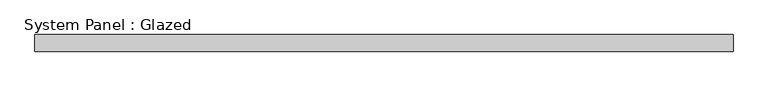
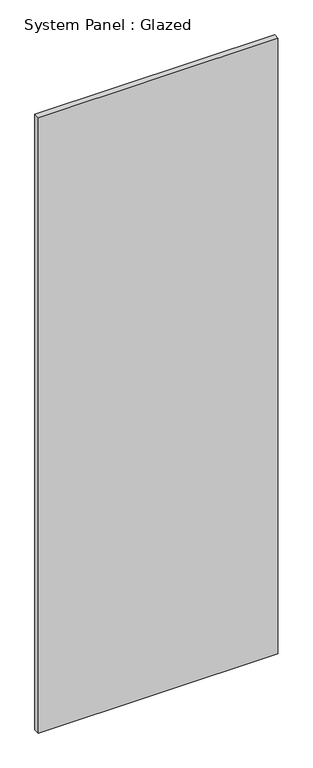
"""IFC4 building model written with IfcOpenShell, lengths in millimetres: plate geometry, System Panel : Glazed."""

import ifcopenshell
import ifcopenshell.guid

model = None  # the IFC model being written
_history = None  # IfcOwnerHistory: only IFC2X3 demands one
_inside = {}  # id of a spatial element -> (the spatial element, [elements in it])
_under = {}  # id of a project, library or spatial element -> (it, [spatial elements below it])
_declared = {}  # id of a project -> (the project, [libraries it declares])
_typed = {}  # id of a type object -> (the type object, [elements of that type])
_made_of = {}  # id of a material, layer set ... -> (it, [elements and type objects made of it])


def new_model(schema):
    """Start an empty IFC model of exactly this schema.

    Asked for "IFC4X3", IfcOpenShell would pick the latest addendum, in which some entities
    have other attributes; the version numbers below select the first issue.
    IFC2X3 requires an IfcOwnerHistory on every rooted entity: one is made here for all.
    """
    global model, _history
    if schema == "IFC4X3":
        model = ifcopenshell.file(schema_version=(4, 3, 0, 0))
    else:
        model = ifcopenshell.file(schema=schema)
    _inside.clear()
    _under.clear()
    _declared.clear()
    _typed.clear()
    _made_of.clear()
    _history = None
    if model.schema == "IFC2X3":
        org = make("IfcOrganization", Name="unknown")
        user = make(
            "IfcPersonAndOrganization",
            ThePerson=make("IfcPerson", FamilyName="unknown"),
            TheOrganization=org,
        )
        app = make(
            "IfcApplication",
            ApplicationDeveloper=org,
            Version="unknown",
            ApplicationFullName="unknown",
            ApplicationIdentifier="unknown",
        )
        _history = make(
            "IfcOwnerHistory",
            OwningUser=user,
            OwningApplication=app,
            ChangeAction="ADDED",
            CreationDate=0,
        )
    return model


def make(cls, **values):
    """One entity of the class cls with the attributes given. An attribute that is None is left unset."""
    return model.create_entity(
        cls, **{name: value for name, value in values.items() if value is not None}
    )


def rooted(cls, **values):
    """An entity with a GlobalId (a new one), such as an element, a storey or a relation."""
    return make(cls, GlobalId=ifcopenshell.guid.new(), OwnerHistory=_history, **values)


def si_unit(unit_type, name, prefix=None):
    """IfcSIUnit, for example si_unit("LENGTHUNIT", "METRE", prefix="MILLI")."""
    return make("IfcSIUnit", UnitType=unit_type, Prefix=prefix, Name=name)


def assignment(units):
    """IfcUnitAssignment: the units of a project."""
    return None if units is None else make("IfcUnitAssignment", Units=units)


def point(xyz):
    """IfcCartesianPoint."""
    return None if xyz is None else make("IfcCartesianPoint", Coordinates=xyz)


def direction(xyz):
    """IfcDirection."""
    return None if xyz is None else make("IfcDirection", DirectionRatios=xyz)


def frame(location, z_axis=None, x_axis=None):
    """IfcAxis2Placement3D, a coordinate frame: its origin and axes. An axis left out is left unset."""
    return make(
        "IfcAxis2Placement3D",
        Location=point(location),
        Axis=direction(z_axis),
        RefDirection=direction(x_axis),
    )


def origin():
    """The frame at (0, 0, 0) with its axes left unset."""
    return frame((0.0, 0.0, 0.0))


def origin_with_axes():
    """The frame at (0, 0, 0) with the z axis (0, 0, 1) and the x axis (1, 0, 0) written out."""
    return frame((0.0, 0.0, 0.0), z_axis=(0.0, 0.0, 1.0), x_axis=(1.0, 0.0, 0.0))


def place(relative_to, where):
    """IfcLocalPlacement: puts the frame where relative to a parent placement (None: the world)."""
    return make(
        "IfcLocalPlacement", PlacementRelTo=relative_to, RelativePlacement=where
    )


def context(
    kind, dimensions, precision=None, world=None, true_north=None, identifier=None
):
    """IfcGeometricRepresentationContext, for example the 3D "Model" context."""
    return make(
        "IfcGeometricRepresentationContext",
        ContextIdentifier=identifier,
        ContextType=kind,
        CoordinateSpaceDimension=dimensions,
        Precision=precision,
        WorldCoordinateSystem=world,
        TrueNorth=true_north,
    )


def project(units=None, contexts=None):
    """IfcProject with its units and contexts."""
    return rooted(
        "IfcProject",
        Name="project",
        RepresentationContexts=contexts,
        UnitsInContext=assignment(units),
    )


def spatial(cls, under=None, at=None, **own):
    """A site, building, storey or space (cls), placed at a placement, below another one or the project."""
    s = rooted(cls, ObjectPlacement=at, **own)
    if under is not None:
        _under.setdefault(under.id(), (under, []))[1].append(s)
    return s


def polyline(points):
    """IfcPolyline through the points."""
    return make("IfcPolyline", Points=[point(p) for p in points])


def outline(outer, holes=None, kind="AREA"):
    """IfcArbitraryClosedProfileDef: a profile drawn as a closed curve; with holes, ...WithVoids."""
    if holes is None:
        return make("IfcArbitraryClosedProfileDef", ProfileType=kind, OuterCurve=outer)
    return make(
        "IfcArbitraryProfileDefWithVoids",
        ProfileType=kind,
        OuterCurve=outer,
        InnerCurves=holes,
    )


def extrude(swept, where, along, depth):
    """IfcExtrudedAreaSolid: the profile swept, set in the frame where, extruded along a direction by depth."""
    return make(
        "IfcExtrudedAreaSolid",
        SweptArea=swept,
        Position=where,
        ExtrudedDirection=direction(along),
        Depth=depth,
    )


def shape(context_of_items, identifier, shape_type, items):
    """IfcShapeRepresentation: the items that make up one representation, for example the "Body"."""
    return make(
        "IfcShapeRepresentation",
        ContextOfItems=context_of_items,
        RepresentationIdentifier=identifier,
        RepresentationType=shape_type,
        Items=items,
    )


def source(mapping_origin, context_of_items, identifier, shape_type, items):
    """IfcRepresentationMap: a shape defined once, which mapped items show again and again."""
    return make(
        "IfcRepresentationMap",
        MappingOrigin=mapping_origin,
        MappedRepresentation=shape(context_of_items, identifier, shape_type, items),
    )


def transform(
    local_origin,
    x_axis=None,
    y_axis=None,
    z_axis=None,
    scale=None,
    scale2=None,
    scale3=None,
    uniform=True,
):
    """IfcCartesianTransformationOperator3D, or its non-uniform kind. x_axis, y_axis, z_axis: its Axis1, 2, 3."""
    if uniform:
        return make(
            "IfcCartesianTransformationOperator3D",
            Axis1=direction(x_axis),
            Axis2=direction(y_axis),
            LocalOrigin=point(local_origin),
            Scale=scale,
            Axis3=direction(z_axis),
        )
    return make(
        "IfcCartesianTransformationOperator3DnonUniform",
        Axis1=direction(x_axis),
        Axis2=direction(y_axis),
        LocalOrigin=point(local_origin),
        Scale=scale,
        Axis3=direction(z_axis),
        Scale2=scale2,
        Scale3=scale3,
    )


def mapped(mapping_source, mapping_target):
    """IfcMappedItem: shows the shape of a source again, moved by a transform."""
    return make(
        "IfcMappedItem", MappingSource=mapping_source, MappingTarget=mapping_target
    )


def made_of(thing, what):
    """Note that an element or type object is made of a material, layer set ...; save() writes the relation."""
    if what is not None:
        _made_of.setdefault(what.id(), (what, []))[1].append(thing)
    return thing


def element(
    cls,
    number,
    at=None,
    inside=None,
    cuts=None,
    type_object=None,
    material=None,
    context=None,
    identifier="Body",
    shape_type=None,
    held_by="IfcProductDefinitionShape",
    body=None,
    shapes=None,
    **own,
):
    """One element of the class cls, such as IfcWall. Its Tag is "e" and its number.

    at: its placement. inside: the storey or other place that contains it. cuts: it is an
    opening in that element (IfcRelVoidsElement). A single representation is given by context,
    identifier, shape_type and body (its items); several are given by shapes. held_by: the class
    of the entity that holds the representations. save() writes the other relations.
    """
    e = rooted(cls, Tag="e%d" % number, ObjectPlacement=at, **own)
    if body is not None:
        shapes = [shape(context, identifier, shape_type, body)]
    if shapes is not None:
        e.Representation = make(held_by, Representations=shapes)
    if inside is not None:
        _inside.setdefault(inside.id(), (inside, []))[1].append(e)
    if cuts is not None:
        rooted(
            "IfcRelVoidsElement", RelatingBuildingElement=cuts, RelatedOpeningElement=e
        )
    if type_object is not None:
        _typed.setdefault(type_object.id(), (type_object, []))[1].append(e)
    return made_of(e, material)


def aggregate(whole, parts):
    """IfcRelAggregates: a whole, such as a stair, and the parts it consists of."""
    return rooted("IfcRelAggregates", RelatingObject=whole, RelatedObjects=parts)


def save(model, path):
    """Write the relations noted so far, then the file.

    IfcRelAggregates (storeys below a building ...), IfcRelContainedInSpatialStructure (elements
    in a storey), IfcRelDefinesByType, IfcRelAssociatesMaterial and IfcRelDeclares: one each for
    every whole, place, type object, material and project.
    """
    for whole, parts in _under.values():
        aggregate(whole, parts)
    for where, things in _inside.values():
        rooted(
            "IfcRelContainedInSpatialStructure",
            RelatedElements=things,
            RelatingStructure=where,
        )
    for kind, things in _typed.values():
        rooted("IfcRelDefinesByType", RelatedObjects=things, RelatingType=kind)
    for what, things in _made_of.values():
        rooted("IfcRelAssociatesMaterial", RelatedObjects=things, RelatingMaterial=what)
    for by, libraries in _declared.values():
        rooted("IfcRelDeclares", RelatingContext=by, RelatedDefinitions=libraries)
    model.write(path)


def system_panel_glazed_b6cfed7b(model_context):
    return source(origin(), model_context, "Body", "SweptSolid", [
        extrude(outline(polyline([(523.875, 19.05), (-523.875, 19.05), (-523.875, 44.45), (523.875, 44.45), (523.875, 19.05)])), origin_with_axes(), (0.0, 0.0, 1.0), 2844.4252182),
    ])


if __name__ == "__main__":
    model = new_model("IFC4")
    model_context = context("Model", 3, world=origin())
    ifc_project = project(units=[si_unit("LENGTHUNIT", "METRE", prefix="MILLI")], contexts=[model_context])
    site = spatial("IfcSite", under=ifc_project)
    building = spatial("IfcBuilding", under=site)
    placement = place(None, origin())
    system_panel_glazed_shape = system_panel_glazed_b6cfed7b(model_context)
    element("IfcPlate", 1, ObjectType="System Panel : Glazed", at=placement, inside=building, context=model_context, shape_type="MappedRepresentation", body=[
        mapped(system_panel_glazed_shape, transform((0.0, 0.0, 0.0), x_axis=(1.0, 0.0, 0.0), y_axis=(0.0, 1.0, 0.0), z_axis=(0.0, 0.0, 1.0))),
    ])
    save(model, "model.ifc")
